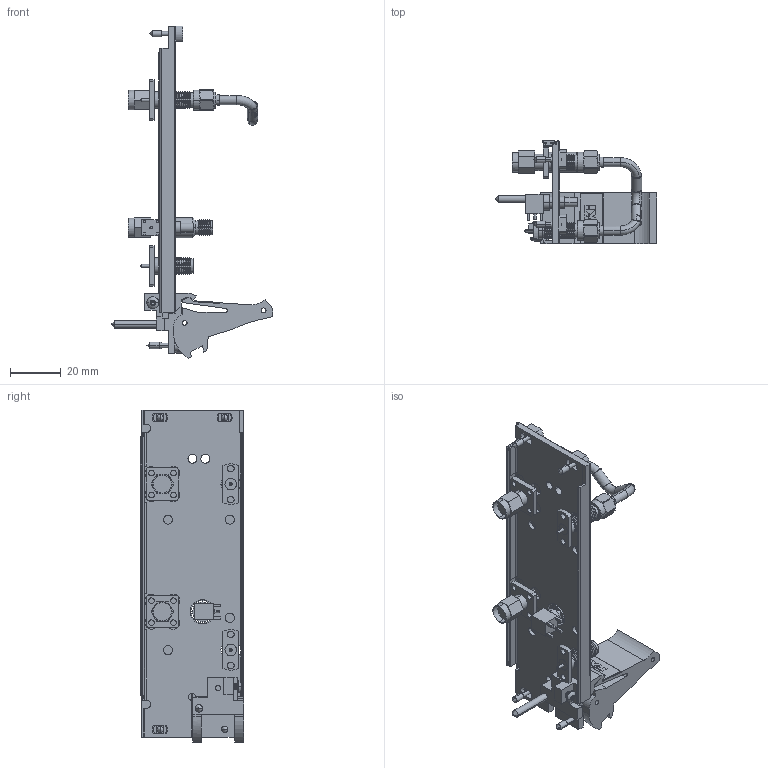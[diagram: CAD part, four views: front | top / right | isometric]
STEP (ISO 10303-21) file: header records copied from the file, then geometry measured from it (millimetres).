
FILE_DESCRIPTION((''),'2;1');
FILE_NAME('CU_PXIE-5696','2015-03-04T',('jjorden'),(''),'PRO/ENGINEER BY PARAMETRIC TECHNOLOGY CORPORATION, 2014000','PRO/ENGINEER BY PARAMETRIC TECHNOLOGY CORPORATION, 2014000','');
FILE_SCHEMA(('CONFIG_CONTROL_DESIGN'));
Products named in the file (1): CU_PXIE-5696
Bounding box: 63.53 x 40.61 x 130.41 mm (x, y, z)
Volume: 27695.7 mm3; surface area: 28008.5 mm2
Topology: 8 solids, 8 shells, 1634 faces, 4492 edges, 2911 vertices
Faces by surface type: plane 758, cylinder 548, cone 268, torus 26, bspline 12, sphere 12, extrusion 10
Entity records: 61599 total; most frequent: CARTESIAN_POINT 19843, ORIENTED_EDGE 8956, DIRECTION 8482, EDGE_CURVE 4478, AXIS2_PLACEMENT_3D 2973, VERTEX_POINT 2911, VECTOR 2536, LINE 2526
